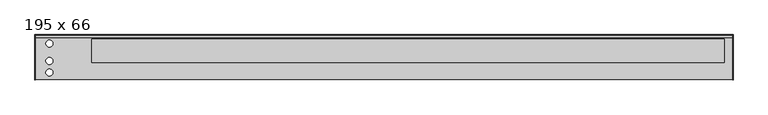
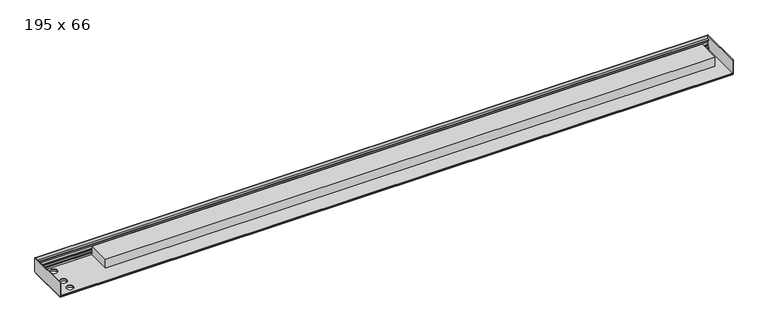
"""IFC4 building model written with IfcOpenShell, lengths in millimetres: proxy geometry, Mohlenhof_Внутрипольный конвектор_QSKM : 195 x 66."""

from ifc_helpers import new_model, si_unit, point, frame, frame_2d, origin, place, context, project, spatial, polyline, circle_curve, trimmed, segment, composite_curve, outline, extrude, source, transform, mapped, element, save


def proxy_195_x_66_6e926e30(model_context):
    return source(origin(), model_context, "Body", "SweptSolid", [
        extrude(outline(polyline([(-100.0, -48.5473602), (-101.5, -49.2468216), (-102.5, -49.2468216), (-102.5, -46.0008038), (-105.0, -46.0008038), (-105.0, -56.5008038), (-102.5, -56.5008038), (-102.5, -53.2468216), (-101.5, -53.2468216), (-100.0, -53.9462831), (-100.0, -66.5), (-104.0, -66.5), (-104.0, -65.2), (-102.0, -65.2), (-102.0, -62.5), (-113.0, -62.5), (-113.0, -54.9172677), (-111.5827323, -53.5), (-108.0, -53.5), (-108.0, -45.91), (-106.0, -43.91), (-106.0, -39.5), (-105.0, -39.5), (-105.0, -43.5), (-102.5043561, -43.5), (-102.5043561, -23.0), (-105.0, -23.0), (-105.0, -27.0), (-106.0, -27.0), (-106.0, -17.0), (-111.6043561, -17.0), (-111.6043561, -15.0), (-101.6, -15.0), (-101.6, 0.0), (-100.0, 0.0), (-100.0, -48.5473602)])), frame((-1498.0, 0.0, 0.0), z_axis=(1.0, 0.0, 0.0), x_axis=(0.0, 1.0, 0.0)), (0.0, 0.0, 1.0), 2996.0),
        extrude(outline(polyline([(1498.0, -104.499991), (1498.0, -290.5), (-1498.0, -290.5), (-1498.0, -104.499991), (1498.0, -104.499991)]), holes=[composite_curve([segment(trimmed(circle_curve(frame_2d((-1438.0, -138.0)), 15.0), [point((-1453.0, -138.0))], [point((-1423.0, -138.0))], True, "CARTESIAN"), True, "CONTINUOUS"), segment(trimmed(circle_curve(frame_2d((-1438.0, -138.0)), 15.0), [point((-1423.0, -138.0))], [point((-1453.0, -138.0))], True, "CARTESIAN"), True, "CONTINUOUS")], self_intersect=False), composite_curve([segment(trimmed(circle_curve(frame_2d((-1438.0, -213.0)), 15.0), [point((-1453.0, -213.0))], [point((-1423.0, -213.0))], True, "CARTESIAN"), True, "CONTINUOUS"), segment(trimmed(circle_curve(frame_2d((-1438.0, -213.0)), 15.0), [point((-1423.0, -213.0))], [point((-1453.0, -213.0))], True, "CARTESIAN"), True, "CONTINUOUS")], self_intersect=False), composite_curve([segment(trimmed(circle_curve(frame_2d((-1438.0, -263.0)), 15.0), [point((-1453.0, -263.0))], [point((-1423.0, -263.0))], True, "CARTESIAN"), True, "CONTINUOUS"), segment(trimmed(circle_curve(frame_2d((-1438.0, -263.0)), 15.0), [point((-1423.0, -263.0))], [point((-1453.0, -263.0))], True, "CARTESIAN"), True, "CONTINUOUS")], self_intersect=False)]), frame((0.0, 0.0, -71.5), z_axis=(0.0, 0.0, 1.0), x_axis=(1.0, 0.0, 0.0)), (0.0, 0.0, 1.0), 6.3),
        extrude(outline(polyline([(1498.0, -102.0), (1498.0, -293.0), (-1498.0, -293.0), (-1498.0, -102.0), (1498.0, -102.0)]), holes=[composite_curve([segment(trimmed(circle_curve(frame_2d((-1438.0, -138.0)), 15.0), [point((-1453.0, -138.0))], [point((-1423.0, -138.0))], True, "CARTESIAN"), True, "CONTINUOUS"), segment(trimmed(circle_curve(frame_2d((-1438.0, -138.0)), 15.0), [point((-1423.0, -138.0))], [point((-1453.0, -138.0))], True, "CARTESIAN"), True, "CONTINUOUS")], self_intersect=False), composite_curve([segment(trimmed(circle_curve(frame_2d((-1438.0, -213.0)), 15.0), [point((-1453.0, -213.0))], [point((-1423.0, -213.0))], True, "CARTESIAN"), True, "CONTINUOUS"), segment(trimmed(circle_curve(frame_2d((-1438.0, -213.0)), 15.0), [point((-1423.0, -213.0))], [point((-1453.0, -213.0))], True, "CARTESIAN"), True, "CONTINUOUS")], self_intersect=False), composite_curve([segment(trimmed(circle_curve(frame_2d((-1438.0, -263.0)), 15.0), [point((-1453.0, -263.0))], [point((-1423.0, -263.0))], True, "CARTESIAN"), True, "CONTINUOUS"), segment(trimmed(circle_curve(frame_2d((-1438.0, -263.0)), 15.0), [point((-1423.0, -263.0))], [point((-1453.0, -263.0))], True, "CARTESIAN"), True, "CONTINUOUS")], self_intersect=False)]), frame((0.0, 0.0, -65.2), z_axis=(0.0, 0.0, 1.0), x_axis=(1.0, 0.0, 0.0)), (0.0, 0.0, 1.0), 2.7),
        extrude(outline(polyline([(1463.0, -119.25), (1463.0, -219.25), (-1255.0, -219.25), (-1255.0, -119.25), (1463.0, -119.25)])), frame((0.0, 0.0, -62.5), z_axis=(0.0, 0.0, 1.0), x_axis=(1.0, 0.0, 0.0)), (0.0, 0.0, 1.0), 43.0),
        extrude(outline(polyline([(1500.0, -295.0), (1498.0, -295.0), (1498.0, -100.0), (1500.0, -100.0), (1500.0, -295.0)])), frame((0.0, 0.0, -66.5), z_axis=(0.0, 0.0, 1.0), x_axis=(1.0, 0.0, 0.0)), (0.0, 0.0, 1.0), 66.5),
        extrude(outline(polyline([(-1498.0, -100.0), (-1498.0, -295.0), (-1500.0, -295.0), (-1500.0, -100.0), (-1498.0, -100.0)])), frame((0.0, 0.0, -66.5), z_axis=(0.0, 0.0, 1.0), x_axis=(1.0, 0.0, 0.0)), (0.0, 0.0, 1.0), 66.5),
    ])


if __name__ == "__main__":
    model = new_model("IFC4")
    model_context = context("Model", 3, world=origin())
    ifc_project = project(units=[si_unit("LENGTHUNIT", "METRE", prefix="MILLI")], contexts=[model_context])
    site = spatial("IfcSite", under=ifc_project)
    building = spatial("IfcBuilding", under=site)
    placement = place(None, origin())
    proxy_195_x_66_shape = proxy_195_x_66_6e926e30(model_context)
    element("IfcBuildingElementProxy", 1, Name="Mohlenhof_Внутрипольный конвектор_QSKM : 195 x 66", ObjectType="Mohlenhof_Внутрипольный конвектор_QSKM : 195 x 66", at=placement, inside=building, context=model_context, shape_type="MappedRepresentation", body=[
        mapped(proxy_195_x_66_shape, transform((0.0, 0.0, 0.0), x_axis=(1.0, 0.0, 0.0), y_axis=(0.0, 1.0, 0.0), z_axis=(0.0, 0.0, 1.0))),
    ])
    save(model, "model.ifc")
